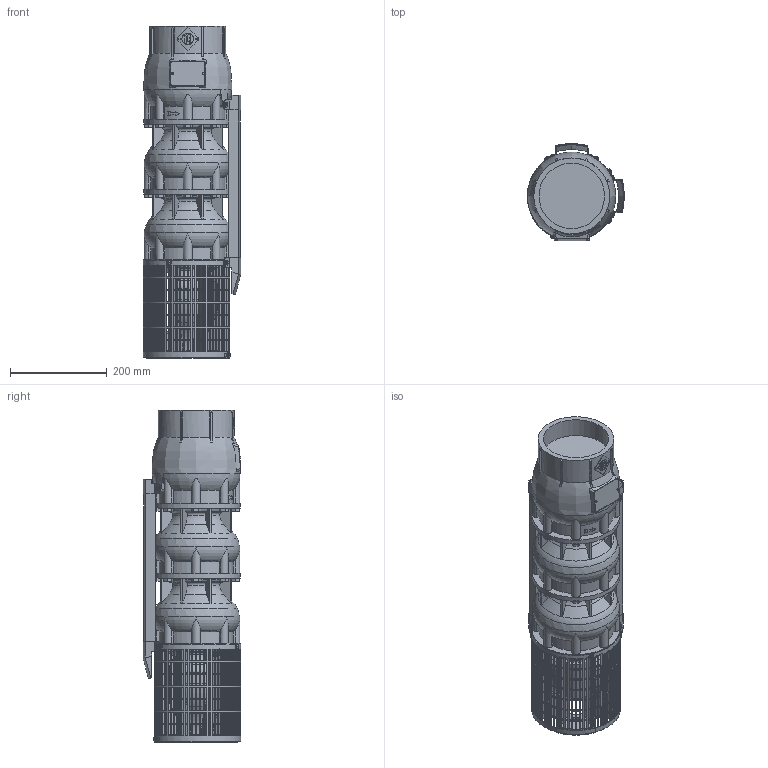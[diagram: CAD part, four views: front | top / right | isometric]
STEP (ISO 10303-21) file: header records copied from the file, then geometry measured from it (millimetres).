
FILE_DESCRIPTION(/* description */ ('Unknown'),/* implementation_level */ '2;1');
FILE_NAME(/* name */ 'VSI134-2_WR_M6-50_SLE',/* time_stamp */ '2023-09-14T15:06:54+02:00',/* author */ ('Unknown'),/* organization */ ('Unknown'),/* preprocessor_version */ 'ST-DEVELOPER v18.102',/* originating_system */ 'Solid Edge',/* authorisation */ 'Unknown');
FILE_SCHEMA (('AUTOMOTIVE_DESIGN {1 0 10303 214 3 1 1}'));
Products named in the file (11): VSI134-2_WR_M6-50_SLE; VSI134_testata; VSI134_diffusore; VSI134_supporto_8×6; VSI134_filtro_A; VSI134_filtro_B; VSI134_terminale_top_copricavo_basso; VSI134_terminale_bottom_copricavo_basso; LOW 134-2; M5X8_UNI7687; VSI134_giunto_8×6
Assembly tree (26 placements, depth 2):
  VSI134-2_WR_M6-50_SLE
    VSI134_testata
    VSI134_diffusore  x2
    VSI134_supporto_8×6
    VSI134_filtro_A
    VSI134_filtro_B
    VSI134_terminale_top_copricavo_basso  x2
    VSI134_terminale_bottom_copricavo_basso  x2
    LOW 134-2  x2
    M5X8_UNI7687  x13
    VSI134_giunto_8×6
Bounding box: 201.57 x 202.09 x 687 mm (x, y, z)
Volume: 10656370.2 mm3; surface area: 1095923.8 mm2
Topology: 65 solids, 67 shells, 2990 faces, 8414 edges, 5602 vertices
Faces by surface type: plane 2316, cylinder 427, torus 143, cone 58, bspline 31, sphere 15
Full cylindrical faces by diameter (mm): 2.4 x2, 3 x2, 4.2 x16, 5 x13, 5.5 x8, 15 x4, 26 x1, 44 x1, 59 x1, 74 x1, 76.2 x1, 98 x1, 135.472 x1, 157 x1, 182 x3
Entity records: 83757 total; most frequent: CARTESIAN_POINT 18046, ORIENTED_EDGE 13738, DIRECTION 13174, EDGE_CURVE 6869, VERTEX_POINT 4627, AXIS2_PLACEMENT_3D 4494, LINE 4186, VECTOR 4186
